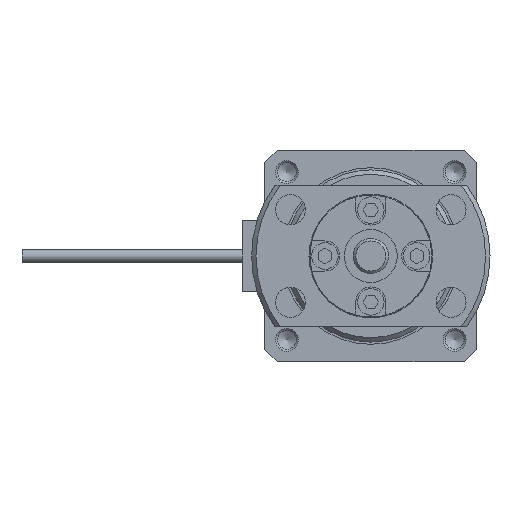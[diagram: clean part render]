
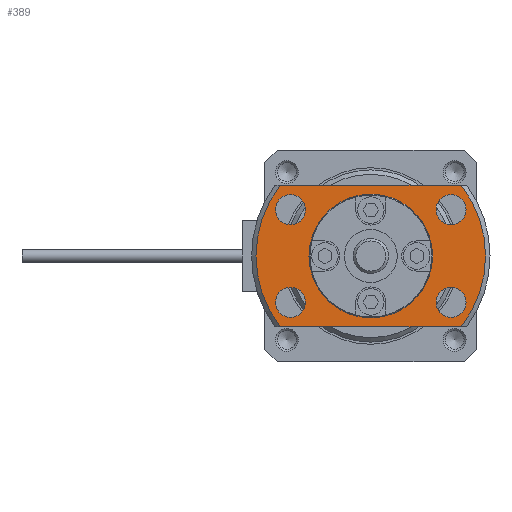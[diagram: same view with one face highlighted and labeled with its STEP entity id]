
A CAD part, left-side view. The second image highlights one B-rep face of the part: STEP entity #389.
In plain terms, the highlighted planar face has unit normal (-1, 0, 0) as drawn and (0, 0, 1) by its records, which use the part's own axes.
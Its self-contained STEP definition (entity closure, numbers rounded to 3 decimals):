
#389 = ADVANCED_FACE( '', ( #1071, #1072, #1073, #1074, #1075, #1076 ), #1077, .F. );
#1071 = FACE_OUTER_BOUND( '', #2154, .T. );
#1072 = FACE_BOUND( '', #2155, .T. );
#1073 = FACE_BOUND( '', #2156, .T. );
#1074 = FACE_BOUND( '', #2157, .T. );
#1075 = FACE_BOUND( '', #2158, .T. );
#1076 = FACE_BOUND( '', #2159, .T. );
#1077 = PLANE( '', #2160 );
#2154 = EDGE_LOOP( '', ( #3361, #3362, #3363, #3364 ) );
#2155 = EDGE_LOOP( '', ( #3365 ) );
#2156 = EDGE_LOOP( '', ( #3366 ) );
#2157 = EDGE_LOOP( '', ( #3367 ) );
#2158 = EDGE_LOOP( '', ( #3368 ) );
#2159 = EDGE_LOOP( '', ( #3369 ) );
#2160 = AXIS2_PLACEMENT_3D( '', #3370, #3371, #3372 );
#3361 = ORIENTED_EDGE( '', *, *, #6178, .F. );
#3362 = ORIENTED_EDGE( '', *, *, #6179, .T. );
#3363 = ORIENTED_EDGE( '', *, *, #6180, .F. );
#3364 = ORIENTED_EDGE( '', *, *, #6181, .T. );
#3365 = ORIENTED_EDGE( '', *, *, #6182, .F. );
#3366 = ORIENTED_EDGE( '', *, *, #6183, .F. );
#3367 = ORIENTED_EDGE( '', *, *, #6184, .F. );
#3368 = ORIENTED_EDGE( '', *, *, #6185, .F. );
#3369 = ORIENTED_EDGE( '', *, *, #6186, .T. );
#3370 = CARTESIAN_POINT( '', ( 0., 0., -8. ) );
#3371 = DIRECTION( '', ( 0., 0., -1. ) );
#3372 = DIRECTION( '', ( -1., 0., 0. ) );
#6178 = EDGE_CURVE( '', #7271, #7272, #7273, .T. );
#6179 = EDGE_CURVE( '', #7271, #7274, #7275, .T. );
#6180 = EDGE_CURVE( '', #7276, #7274, #7277, .T. );
#6181 = EDGE_CURVE( '', #7276, #7272, #7278, .T. );
#6182 = EDGE_CURVE( '', #7279, #7279, #7280, .T. );
#6183 = EDGE_CURVE( '', #7281, #7281, #7282, .T. );
#6184 = EDGE_CURVE( '', #7283, #7283, #7284, .T. );
#6185 = EDGE_CURVE( '', #7285, #7285, #7286, .T. );
#6186 = EDGE_CURVE( '', #7287, #7287, #7288, .T. );
#7271 = VERTEX_POINT( '', #8893 );
#7272 = VERTEX_POINT( '', #8894 );
#7273 = CIRCLE( '', #8895, 13. );
#7274 = VERTEX_POINT( '', #8896 );
#7275 = LINE( '', #8897, #8898 );
#7276 = VERTEX_POINT( '', #8899 );
#7277 = CIRCLE( '', #8900, 13. );
#7278 = LINE( '', #8901, #8902 );
#7279 = VERTEX_POINT( '', #8903 );
#7280 = CIRCLE( '', #8904, 1.7 );
#7281 = VERTEX_POINT( '', #8905 );
#7282 = CIRCLE( '', #8906, 1.7 );
#7283 = VERTEX_POINT( '', #8907 );
#7284 = CIRCLE( '', #8908, 1.7 );
#7285 = VERTEX_POINT( '', #8909 );
#7286 = CIRCLE( '', #8910, 1.7 );
#7287 = VERTEX_POINT( '', #8911 );
#7288 = CIRCLE( '', #8912, 6.8 );
#8893 = CARTESIAN_POINT( '', ( -8., 10.247, -8. ) );
#8894 = CARTESIAN_POINT( '', ( 8., 10.247, -8. ) );
#8895 = AXIS2_PLACEMENT_3D( '', #11341, #11342, #11343 );
#8896 = CARTESIAN_POINT( '', ( -8., -10.247, -8. ) );
#8897 = CARTESIAN_POINT( '', ( -8., 20., -8. ) );
#8898 = VECTOR( '', #11344, 1000. );
#8899 = CARTESIAN_POINT( '', ( 8., -10.247, -8. ) );
#8900 = AXIS2_PLACEMENT_3D( '', #11345, #11346, #11347 );
#8901 = CARTESIAN_POINT( '', ( 8., -20., -8. ) );
#8902 = VECTOR( '', #11348, 1000. );
#8903 = CARTESIAN_POINT( '', ( 6.95, -9.093, -8. ) );
#8904 = AXIS2_PLACEMENT_3D( '', #11349, #11350, #11351 );
#8905 = CARTESIAN_POINT( '', ( -3.55, -9.093, -8. ) );
#8906 = AXIS2_PLACEMENT_3D( '', #11352, #11353, #11354 );
#8907 = CARTESIAN_POINT( '', ( 6.95, 9.093, -8. ) );
#8908 = AXIS2_PLACEMENT_3D( '', #11355, #11356, #11357 );
#8909 = CARTESIAN_POINT( '', ( -3.55, 9.093, -8. ) );
#8910 = AXIS2_PLACEMENT_3D( '', #11358, #11359, #11360 );
#8911 = CARTESIAN_POINT( '', ( -6.8, 0., -8. ) );
#8912 = AXIS2_PLACEMENT_3D( '', #11361, #11362, #11363 );
#11341 = CARTESIAN_POINT( '', ( 0., 0., -8. ) );
#11342 = DIRECTION( '', ( 0., 0., -1. ) );
#11343 = DIRECTION( '', ( -1., 0., 0. ) );
#11344 = DIRECTION( '', ( 0., -1., 0. ) );
#11345 = CARTESIAN_POINT( '', ( 0., 0., -8. ) );
#11346 = DIRECTION( '', ( 0., 0., -1. ) );
#11347 = DIRECTION( '', ( -1., 0., 0. ) );
#11348 = DIRECTION( '', ( 0., 1., 0. ) );
#11349 = CARTESIAN_POINT( '', ( 5.25, -9.093, -8. ) );
#11350 = DIRECTION( '', ( 0., 0., 1. ) );
#11351 = DIRECTION( '', ( 1., 0., 0. ) );
#11352 = CARTESIAN_POINT( '', ( -5.25, -9.093, -8. ) );
#11353 = DIRECTION( '', ( 0., 0., 1. ) );
#11354 = DIRECTION( '', ( 1., 0., 0. ) );
#11355 = CARTESIAN_POINT( '', ( 5.25, 9.093, -8. ) );
#11356 = DIRECTION( '', ( 0., 0., 1. ) );
#11357 = DIRECTION( '', ( 1., 0., 0. ) );
#11358 = CARTESIAN_POINT( '', ( -5.25, 9.093, -8. ) );
#11359 = DIRECTION( '', ( 0., 0., 1. ) );
#11360 = DIRECTION( '', ( 1., 0., 0. ) );
#11361 = CARTESIAN_POINT( '', ( 0., 0., -8. ) );
#11362 = DIRECTION( '', ( 0., 0., -1. ) );
#11363 = DIRECTION( '', ( -1., 0., 0. ) );
